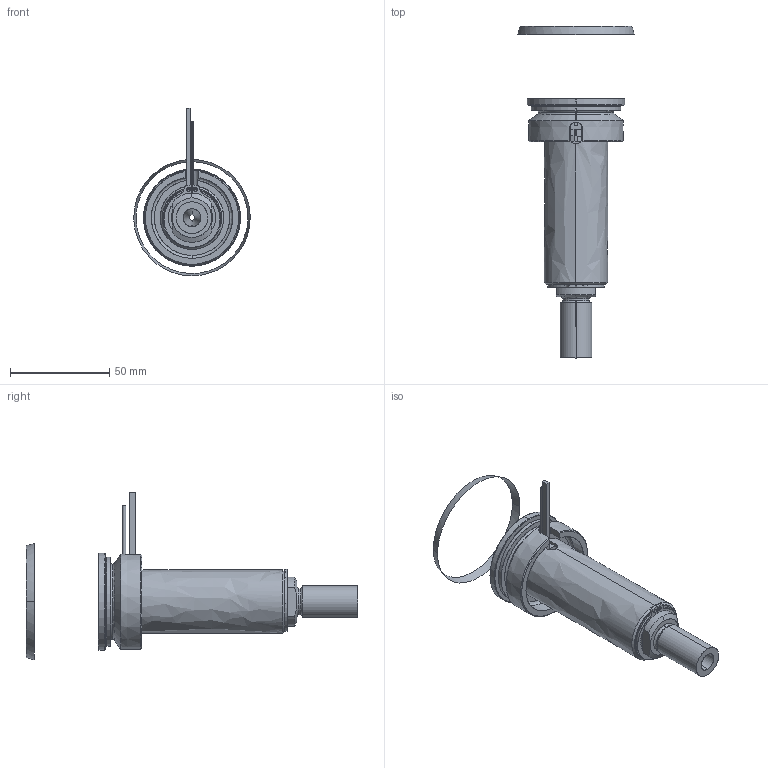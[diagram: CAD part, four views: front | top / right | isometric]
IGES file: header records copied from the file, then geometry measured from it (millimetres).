
Start section: SolidWorks IGES file using analytic representation for surfaces
Global section: file name: C:\Documents and Settings\ws-20\Desktop\TEMPORANEA\UGBE5002-S-A-P-5 [Ød-3.0 P-25 ØC-12].IGS; native system: SolidWorks 2012; preprocessor: SolidWorks 2012; author: ws-20; date: 120306.145334; units: millimetre
Bounding box: 58.79 x 167.44 x 84.69 mm (x, y, z)
Surface area: 43170.3 mm2 (no closed solid volume)
Topology: 0 solids, 0 shells, 110 faces, 2144 edges, 2144 vertices
Faces by surface type: revolution 68, bspline 42
